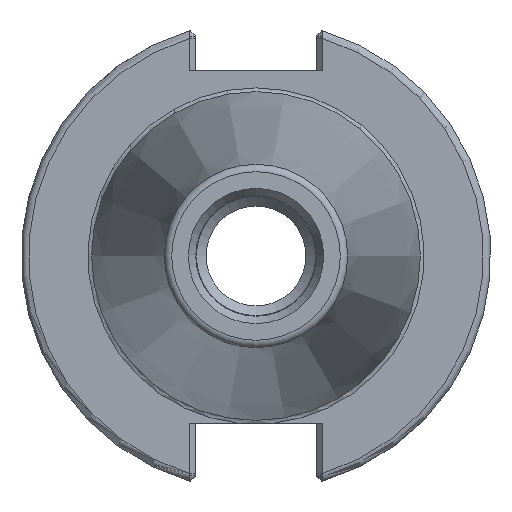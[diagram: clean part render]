
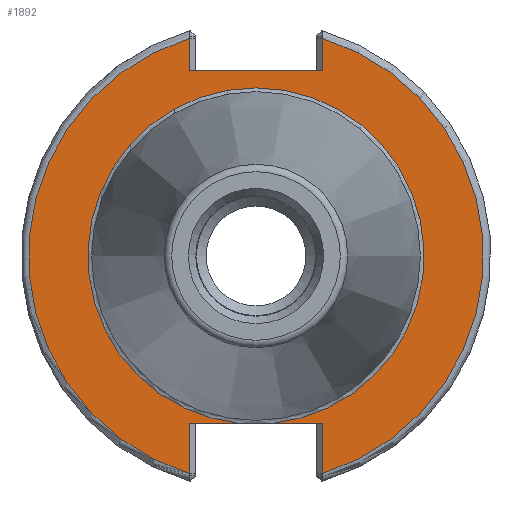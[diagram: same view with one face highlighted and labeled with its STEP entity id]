
A CAD part, left-side view. The second image highlights one B-rep face of the part: STEP entity #1892.
In plain terms, the highlighted planar face has unit normal (-1, 0, 0).
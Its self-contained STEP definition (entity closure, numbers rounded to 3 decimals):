
#117=LINE('',#2957,#243);
#132=LINE('',#3075,#258);
#134=LINE('',#3153,#260);
#135=LINE('',#3159,#261);
#136=LINE('',#3161,#262);
#137=LINE('',#3164,#263);
#138=LINE('',#3165,#264);
#243=VECTOR('',#2349,10.);
#258=VECTOR('',#2370,10.);
#260=VECTOR('',#2392,10.);
#261=VECTOR('',#2397,10.);
#262=VECTOR('',#2398,10.);
#263=VECTOR('',#2401,10.);
#264=VECTOR('',#2402,10.);
#417=CIRCLE('',#2102,30.75);
#418=CIRCLE('',#2104,22.725);
#419=CIRCLE('',#2105,22.725);
#420=CIRCLE('',#2106,30.75);
#475=PLANE('',#2103);
#541=FACE_OUTER_BOUND('',#661,.T.);
#661=EDGE_LOOP('',(#1426,#1427,#1428,#1429,#1430,#1431,#1432,#1433,#1434,
#1435,#1436));
#838=VERTEX_POINT('',#2955);
#839=VERTEX_POINT('',#2956);
#853=VERTEX_POINT('',#3068);
#856=VERTEX_POINT('',#3073);
#863=VERTEX_POINT('',#3132);
#865=VERTEX_POINT('',#3152);
#866=VERTEX_POINT('',#3154);
#867=VERTEX_POINT('',#3156);
#868=VERTEX_POINT('',#3158);
#869=VERTEX_POINT('',#3160);
#870=VERTEX_POINT('',#3162);
#1042=EDGE_CURVE('',#838,#839,#117,.T.);
#1061=EDGE_CURVE('',#856,#853,#132,.T.);
#1073=EDGE_CURVE('',#853,#863,#417,.T.);
#1076=EDGE_CURVE('',#856,#865,#134,.T.);
#1077=EDGE_CURVE('',#865,#866,#418,.T.);
#1078=EDGE_CURVE('',#866,#867,#419,.T.);
#1079=EDGE_CURVE('',#867,#868,#135,.T.);
#1080=EDGE_CURVE('',#869,#868,#136,.T.);
#1081=EDGE_CURVE('',#870,#869,#420,.T.);
#1082=EDGE_CURVE('',#838,#870,#137,.T.);
#1083=EDGE_CURVE('',#863,#839,#138,.T.);
#1426=ORIENTED_EDGE('',*,*,#1061,.F.);
#1427=ORIENTED_EDGE('',*,*,#1076,.T.);
#1428=ORIENTED_EDGE('',*,*,#1077,.T.);
#1429=ORIENTED_EDGE('',*,*,#1078,.T.);
#1430=ORIENTED_EDGE('',*,*,#1079,.T.);
#1431=ORIENTED_EDGE('',*,*,#1080,.F.);
#1432=ORIENTED_EDGE('',*,*,#1081,.F.);
#1433=ORIENTED_EDGE('',*,*,#1082,.F.);
#1434=ORIENTED_EDGE('',*,*,#1042,.T.);
#1435=ORIENTED_EDGE('',*,*,#1083,.F.);
#1436=ORIENTED_EDGE('',*,*,#1073,.F.);
#1892=ADVANCED_FACE('',(#541),#475,.T.);
#2102=AXIS2_PLACEMENT_3D('',#3133,#2388,#2389);
#2103=AXIS2_PLACEMENT_3D('',#3151,#2390,#2391);
#2104=AXIS2_PLACEMENT_3D('',#3155,#2393,#2394);
#2105=AXIS2_PLACEMENT_3D('',#3157,#2395,#2396);
#2106=AXIS2_PLACEMENT_3D('',#3163,#2399,#2400);
#2349=DIRECTION('',(0.,1.,0.));
#2370=DIRECTION('',(0.,0.,-1.));
#2388=DIRECTION('center_axis',(1.,0.,0.));
#2389=DIRECTION('ref_axis',(0.,0.,-1.));
#2390=DIRECTION('center_axis',(-1.,0.,0.));
#2391=DIRECTION('ref_axis',(0.,0.,1.));
#2392=DIRECTION('',(0.,-1.,0.));
#2393=DIRECTION('center_axis',(1.,0.,0.));
#2394=DIRECTION('ref_axis',(0.,0.,-1.));
#2395=DIRECTION('center_axis',(1.,0.,0.));
#2396=DIRECTION('ref_axis',(0.,0.,-1.));
#2397=DIRECTION('',(0.,-1.,0.));
#2398=DIRECTION('',(0.,0.,1.));
#2399=DIRECTION('center_axis',(1.,0.,0.));
#2400=DIRECTION('ref_axis',(0.,0.,-1.));
#2401=DIRECTION('',(0.,0.,1.));
#2402=DIRECTION('',(0.,0.,-1.));
#2955=CARTESIAN_POINT('',(3.175,-8.992,25.019));
#2956=CARTESIAN_POINT('',(3.175,8.992,25.019));
#2957=CARTESIAN_POINT('',(3.175,19.471,25.019));
#3068=CARTESIAN_POINT('',(3.175,8.992,-29.406));
#3073=CARTESIAN_POINT('',(3.175,8.992,-22.606));
#3075=CARTESIAN_POINT('',(3.175,8.992,-11.303));
#3132=CARTESIAN_POINT('',(3.175,8.992,29.406));
#3133=CARTESIAN_POINT('Origin',(3.175,0.,0.));
#3151=CARTESIAN_POINT('Origin',(3.175,30.75,0.));
#3152=CARTESIAN_POINT('',(3.175,2.323,-22.606));
#3153=CARTESIAN_POINT('',(3.175,11.279,-22.606));
#3154=CARTESIAN_POINT('',(3.175,0.,22.725));
#3155=CARTESIAN_POINT('Origin',(3.175,0.,0.));
#3156=CARTESIAN_POINT('',(3.175,-2.323,-22.606));
#3157=CARTESIAN_POINT('Origin',(3.175,0.,0.));
#3158=CARTESIAN_POINT('',(3.175,-8.991,-22.606));
#3159=CARTESIAN_POINT('',(3.175,11.279,-22.606));
#3160=CARTESIAN_POINT('',(3.175,-8.991,-29.406));
#3161=CARTESIAN_POINT('',(3.175,-8.991,-17.303));
#3162=CARTESIAN_POINT('',(3.175,-8.992,29.406));
#3163=CARTESIAN_POINT('Origin',(3.175,0.,0.));
#3164=CARTESIAN_POINT('',(3.175,-8.992,12.51));
#3165=CARTESIAN_POINT('',(3.175,8.992,17.51));
